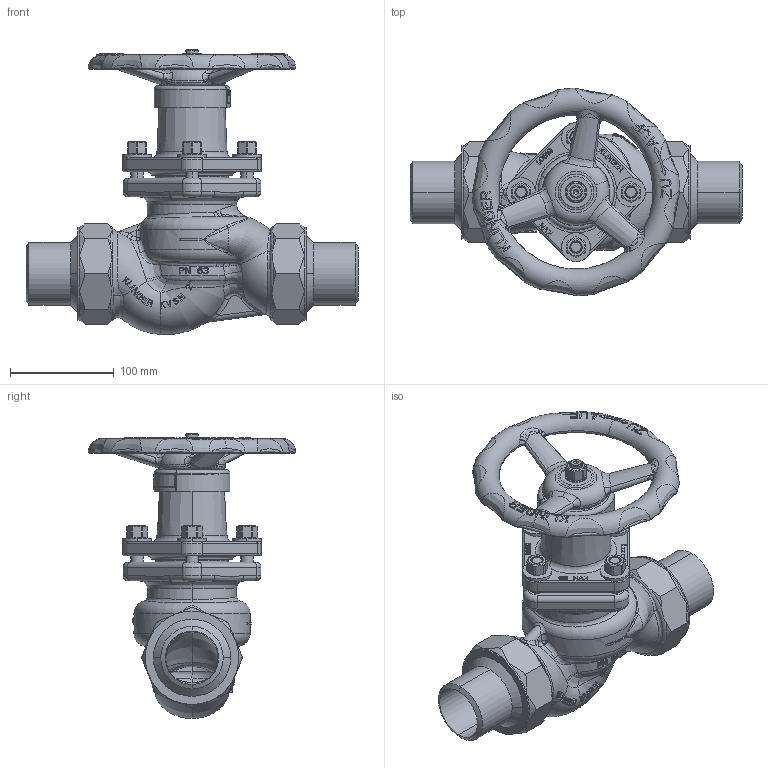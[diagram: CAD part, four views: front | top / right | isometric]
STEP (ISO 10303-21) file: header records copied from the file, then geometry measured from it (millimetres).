
FILE_DESCRIPTION((''),'2;1');
FILE_NAME('KVSN-050S-----P063PGG_SW0001','2015-07-09T',('jeitlers'),('RAND'),'PRO/ENGINEER BY PARAMETRIC TECHNOLOGY CORPORATION, 2013410','PRO/ENGINEER BY PARAMETRIC TECHNOLOGY CORPORATION, 2013410','');
FILE_SCHEMA(('CONFIG_CONTROL_DESIGN'));
Products named in the file (1): KVSN-050S-----P063PGG_SW0001
Bounding box: 320 x 199.99 x 274.6 mm (x, y, z)
Volume: 1734964.6 mm3; surface area: 383114.2 mm2
Topology: 3 solids, 5 shells, 2898 faces, 7781 edges, 4966 vertices
Faces by surface type: plane 1715, bspline 476, cylinder 348, torus 189, cone 148, extrusion 20, sphere 2
Entity records: 195183 total; most frequent: CARTESIAN_POINT 129120, ORIENTED_EDGE 15552, DIRECTION 11039, EDGE_CURVE 7776, VERTEX_POINT 4966, AXIS2_PLACEMENT_3D 3782, VECTOR 3475, LINE 3455
